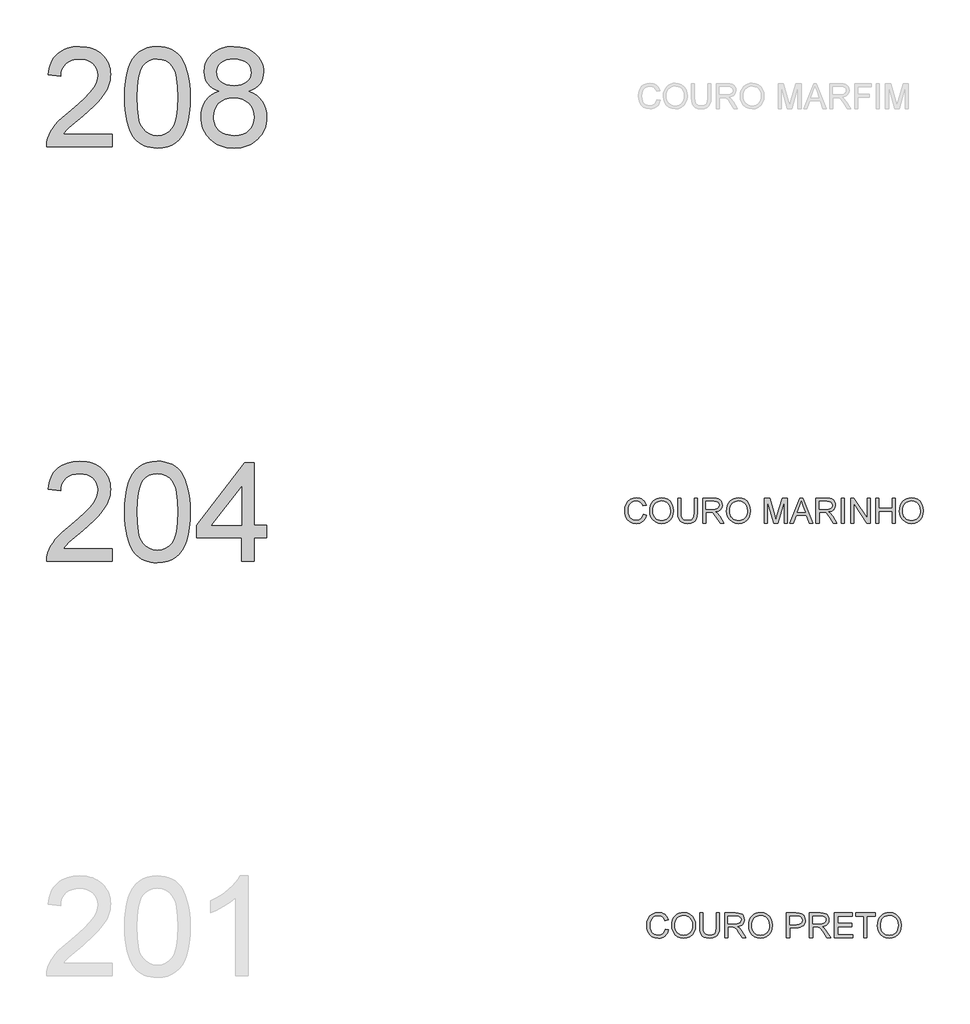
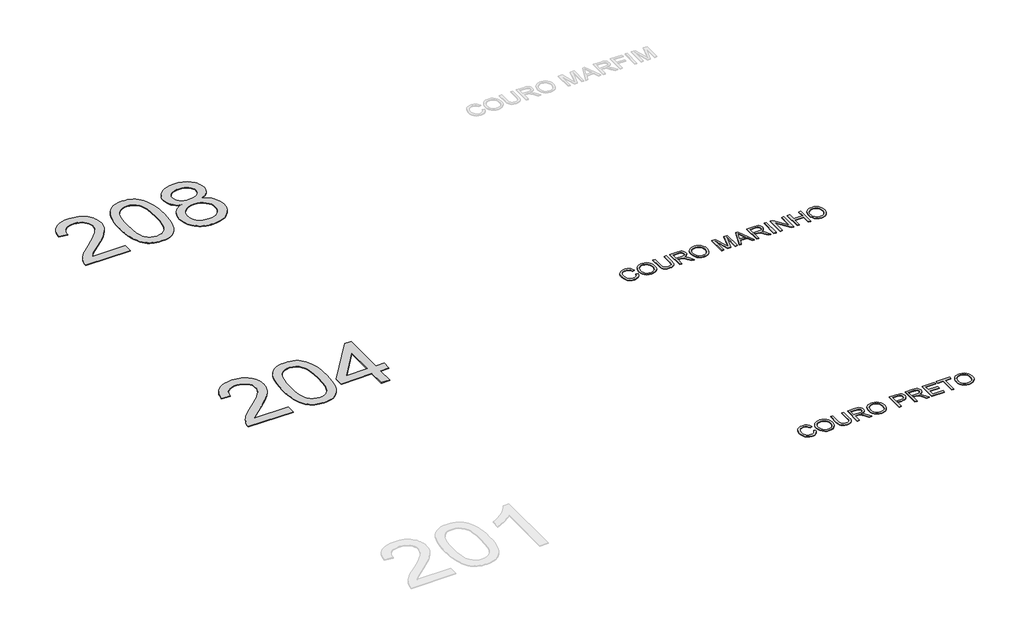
# One storey, part 2 of 35: 4 proxies.
"""IFC4 building model written with IfcOpenShell, lengths in millimetres."""

from ifc_helpers import new_model, si_unit, origin, origin_with_axes, place, context, project, spatial, polyline, outline, extrude, element, save

model = new_model("IFC4")

# Units and contexts
model_context = context("Model", 3, world=origin())
ifc_project = project(units=[si_unit("LENGTHUNIT", "METRE", prefix="MILLI")], contexts=[model_context])

# Site, building, storey
site = spatial("IfcSite", under=ifc_project)
building = spatial("IfcBuilding", under=site)
storey = spatial("IfcBuildingStorey", under=building, Name="Marelli - Linha YOU - Planta Baixa", Elevation=0.0)

# Proxies
placement = place(None, origin())
element("IfcBuildingElementProxy", 1, Name="1200mm Arial", ObjectType="1200mm Arial", at=placement, inside=storey, context=model_context, shape_type="SweptSolid", body=[
    extrude(outline(polyline([(-24408.8734949, -140338.133975), (-24408.8734949, -140488.8184403), (-25199.9669374, -140488.8184403), (-25196.6559994, -140435.7698566), (-25183.7801296, -140384.9285648), (-25167.3541985, -140344.029284), (-25146.6240481, -140303.7370085), (-25121.5896783, -140264.0517383), (-25092.2510892, -140224.9734733), (-25056.8424471, -140184.9755034), (-25013.5979186, -140142.5311182), (-24903.601202, -140050.303102), (-24814.169089, -139973.3605827), (-24740.9973602, -139905.8726307), (-24684.0860155, -139847.839246), (-24643.4350551, -139799.2604285), (-24614.9793827, -139755.7032003), (-24594.6539025, -139712.7345832), (-24582.4586144, -139670.3545774), (-24578.3935183, -139628.5631827), (-24582.2286881, -139589.2457945), (-24593.7341975, -139553.1105855), (-24612.9100465, -139520.1575558), (-24639.7562351, -139490.3867054), (-24672.7828412, -139465.7294146), (-24710.4999428, -139448.1170641), (-24752.9075398, -139437.5496538), (-24800.0056322, -139434.0271837), (-24849.6237163, -139437.4668804), (-24893.999482, -139447.7859703), (-24933.1329292, -139464.9844536), (-24967.024058, -139489.0623302), (-24994.4404637, -139519.2102597), (-25014.1497416, -139554.6189017), (-25026.1518917, -139595.2882563), (-25030.446914, -139641.2183234), (-25181.1313792, -139622.3827652), (-25168.1727359, -139544.5941173), (-25157.7133909, -139509.3832119), (-25144.6006971, -139476.6279187), (-25128.8346543, -139446.3282379), (-25110.4152627, -139418.4841694), (-25089.3425221, -139393.0957132), (-25065.6164327, -139370.1628693), (-25039.4945118, -139349.8143965), (-25011.2342768, -139332.1790533), (-24980.8357277, -139317.2568399), (-24948.2988645, -139305.0477562), (-24876.8101957, -139288.7689779), (-24796.7682706, -139283.3427185), (-24716.0089757, -139289.3759832), (-24678.9609595, -139296.9175641), (-24644.1340308, -139307.4757774), (-24611.5281898, -139321.050623), (-24581.1434362, -139337.642101), (-24552.9797702, -139357.2502113), (-24527.0371918, -139379.874954), (-24503.7571593, -139404.7345798), (-24483.5811311, -139431.0473395), (-24466.5091073, -139458.8132331), (-24452.5410878, -139488.0322606), (-24441.6770726, -139518.7044219), (-24433.9170618, -139550.8297172), (-24429.2610552, -139584.4081463), (-24427.7090531, -139619.4397093), (-24429.3829162, -139655.6301005), (-24434.4045054, -139691.5077921), (-24442.7738208, -139727.072784), (-24454.4908623, -139762.3250762), (-24470.098256, -139797.880871), (-24490.1386277, -139834.3563708), (-24543.5183052, -139910.0664855), (-24580.3524899, -139952.0510182), (-24628.6094106, -140000.4550917), (-24759.3914599, -140116.5218611), (-24932.7374561, -140261.4673672), (-24970.334996, -140299.6903065), (-25000.7220488, -140338.133975), (-24408.8734949, -140338.133975)])), origin_with_axes(), (0.0, 0.0, 1.0), 10.0),
    extrude(outline(polyline([(-24258.1890297, -139895.792664), (-24255.4207177, -139794.4319773), (-24247.1157816, -139702.8385576), (-24233.2742216, -139621.0124048), (-24213.8960375, -139548.953519), (-24189.0640028, -139486.073289), (-24158.860891, -139431.7831035), (-24123.2867021, -139386.0829627), (-24082.341436, -139348.9728664), (-24035.8871371, -139320.2596767), (-23983.7858495, -139299.7502555), (-23926.0375733, -139287.4446027), (-23862.6423085, -139283.3427185), (-23815.0015901, -139285.7707396), (-23769.7888929, -139293.0548031), (-23727.0042169, -139305.194909), (-23686.647562, -139322.1910572), (-23649.6938156, -139343.7581391), (-23617.1178649, -139369.6110463), (-23588.91971, -139399.7497788), (-23565.0993508, -139434.1743365), (-23544.4611709, -139472.7467637), (-23525.8095537, -139515.3291046), (-23494.4660077, -139612.5235278), (-23482.4914488, -139669.6831928), (-23473.9381924, -139735.9479371), (-23468.8062386, -139811.3177609), (-23467.0955873, -139895.792664), (-23469.8363081, -139996.5095573), (-23478.0584707, -140087.6431245), (-23491.7620751, -140169.1933658), (-23510.9471211, -140241.1602811), (-23535.5860177, -140304.0681023), (-23565.6511738, -140358.4410612), (-23601.1425893, -140404.2791578), (-23642.0602642, -140441.5823921), (-23688.5697454, -140470.4887199), (-23740.8365799, -140491.1360968), (-23798.8607676, -140503.524523), (-23862.6423085, -140507.6539984), (-23905.3166199, -140505.8605737), (-23945.6364866, -140500.4802995), (-23983.6019085, -140491.5131759), (-24019.2128856, -140478.9592028), (-24052.469418, -140462.8183803), (-24083.3715056, -140443.0907083), (-24111.9191484, -140419.7761868), (-24138.1123465, -140392.8748159), (-24166.2553191, -140350.2786794), (-24190.6458954, -140302.0999336), (-24211.2840753, -140248.3385785), (-24228.1698589, -140188.9946142), (-24241.3032461, -140124.0680406), (-24250.684237, -140053.5588577), (-24256.3128315, -139977.4670655), (-24258.1890297, -139895.792664)]), holes=[polyline([(-24107.5045645, -139895.4983584), (-24103.0899805, -140026.4919399), (-24089.8462287, -140132.5247279), (-24079.9134148, -140176.1808245), (-24067.773309, -140213.5967226), (-24053.4259112, -140244.7724225), (-24036.8712214, -140269.7079239), (-23999.4944107, -140307.884878), (-23957.9973216, -140335.1541309), (-23912.3799542, -140351.5156826), (-23862.6423085, -140356.9695332), (-23812.9046627, -140351.4972885), (-23767.2872953, -140335.0805545), (-23725.7902063, -140307.7193311), (-23688.4133956, -140269.4136183), (-23671.8587058, -140244.418336), (-23657.511308, -140213.2104465), (-23645.3712021, -140175.7899498), (-23635.4383883, -140132.1568459), (-23622.1946364, -140026.2528166), (-23617.7800525, -139895.4983584), (-23622.0474836, -139767.9720648), (-23634.8497771, -139663.8062779), (-23644.4514972, -139620.4835744), (-23656.1869328, -139583.0009976), (-23670.056084, -139551.3585475), (-23686.0589508, -139525.5562241), (-23722.8103621, -139485.5122689), (-23764.7856978, -139456.9094438), (-23811.9849578, -139439.7477487), (-23864.4081421, -139434.0271837), (-23913.8882704, -139439.067167), (-23958.7330856, -139454.187117), (-23998.9425877, -139479.3870337), (-24034.5167766, -139514.666917), (-24051.6232894, -139543.2145599), (-24066.4489338, -139577.2068562), (-24078.9937099, -139616.6438061), (-24089.2576175, -139661.5254095), (-24102.9428277, -139767.6225769), (-24107.5045645, -139895.4983584)])]), origin_with_axes(), (0.0, 0.0, 1.0), 10.0),
    extrude(outline(polyline([(-23115.6947055, -139824.8650154), (-23159.0404016, -139806.7652212), (-23196.371227, -139785.1337599), (-23227.6871819, -139759.9706314), (-23252.9882661, -139731.2758358), (-23272.4952089, -139699.3252845), (-23286.4287394, -139664.3948891), (-23294.7888578, -139626.4846495), (-23297.5755639, -139585.5945657), (-23291.505511, -139524.1398784), (-23283.9179448, -139495.3301197), (-23273.2953522, -139467.7987509), (-23259.6377331, -139441.545772), (-23242.9450876, -139416.571183), (-23200.4547172, -139370.4571749), (-23175.1674285, -139350.0397242), (-23147.865986, -139332.3446002), (-23118.5503895, -139317.371803), (-23087.2206391, -139305.1213326), (-23018.5186765, -139288.787372), (-22941.7600982, -139283.3427185), (-22864.6336379, -139288.9161307), (-22795.4166405, -139305.6363674), (-22763.7741904, -139318.1765449), (-22734.109106, -139333.5034285), (-22706.4213873, -139351.6170183), (-22680.7110344, -139372.5173141), (-22637.4481118, -139419.5326331), (-22620.4519636, -139444.8613085), (-22606.5460242, -139471.4039944), (-22595.7302935, -139499.1606909), (-22588.0047716, -139528.1313981), (-22583.3694585, -139558.3161158), (-22581.8243541, -139589.7148441), (-22584.574272, -139629.160991), (-22592.8240257, -139665.9767817), (-22606.5736153, -139700.1622161), (-22625.8230407, -139731.7172942), (-22650.6642724, -139760.2189518), (-22681.189281, -139785.2441245), (-22717.3980664, -139806.7928124), (-22759.2906286, -139824.8650154), (-22709.764515, -139845.9354566), (-22666.5475776, -139872.6528865), (-22629.6398164, -139905.0173051), (-22599.0412315, -139943.0287122), (-22575.0277342, -139985.8409794), (-22557.8752362, -140032.607978), (-22547.5837374, -140083.3297081), (-22544.1532378, -140138.0061697), (-22545.854692, -140176.3670647), (-22550.9590547, -140213.1644613), (-22559.4663258, -140248.3983594), (-22571.3765054, -140282.068759), (-22586.6895935, -140314.1756601), (-22605.40559, -140344.7190628), (-22627.5244949, -140373.6989669), (-22653.0463083, -140401.1153726), (-22681.3456308, -140426.085363), (-22711.797063, -140447.7260214), (-22744.4006048, -140466.0373477), (-22779.1562563, -140481.019342), (-22816.0640175, -140492.6720042), (-22855.1238883, -140500.9953343), (-22896.3358688, -140505.9893324), (-22939.699959, -140507.6539984), (-22983.0640492, -140505.9824346), (-23024.2760297, -140500.9677432), (-23063.3359005, -140492.6099241), (-23100.2436617, -140480.9089774), (-23134.9993132, -140465.864903), (-23167.602855, -140447.4777011), (-23198.0542872, -140425.7473715), (-23226.3536096, -140400.6739142), (-23251.875423, -140373.1034579), (-23273.994328, -140343.8821312), (-23292.7103245, -140313.009934), (-23308.0234126, -140280.4868664), (-23319.9335922, -140246.3129283), (-23328.4408633, -140210.4881198), (-23333.545226, -140173.0124408), (-23335.2466802, -140133.8858913), (-23331.6782249, -140076.7170293), (-23320.9728588, -140024.4042096), (-23303.130582, -139976.9474322), (-23278.1513946, -139934.3466971), (-23246.5871194, -139897.3745566), (-23208.9895795, -139866.8035628), (-23165.3587748, -139842.6337157), (-23115.6947055, -139824.8650154)]), holes=[polyline([(-23146.8910987, -139590.0091497), (-23143.5525696, -139624.553269), (-23133.5369822, -139655.7864504), (-23116.8443367, -139683.7086938), (-23093.474633, -139708.3199993), (-23063.7221766, -139728.4063562), (-23027.8812732, -139742.753754), (-22985.9519228, -139751.3621927), (-22937.9341254, -139754.2316723), (-22891.1027474, -139751.3805868), (-22850.083905, -139742.8273304), (-22814.877598, -139728.5719031), (-22785.4838266, -139708.6143049), (-22762.3072609, -139684.5180342), (-22745.7525711, -139657.8465896), (-22735.8197573, -139628.5999709), (-22732.5088193, -139596.7781784), (-22735.9301219, -139563.714784), (-22746.1940295, -139533.3921106), (-22763.3005423, -139505.810158), (-22787.2496602, -139480.9689263), (-22817.3056192, -139460.4319139), (-22852.7326553, -139445.7626193), (-22893.5307686, -139436.9610426), (-22939.699959, -139434.0271837), (-22986.2278343, -139436.8966633), (-23027.2190856, -139445.5051019), (-23062.6737129, -139459.8524998), (-23092.5917162, -139479.9388567), (-23116.347696, -139504.0351274), (-23133.3162531, -139530.4122664), (-23143.4973873, -139559.0702739), (-23146.8910987, -139590.0091497)]), polyline([(-23184.562215, -140128.5883906), (-23182.9895195, -140157.6418712), (-23178.2714329, -140186.2354992), (-23159.3990865, -140242.0431979), (-23144.3986982, -140267.9328933), (-23124.5606616, -140290.7139859), (-23099.8849767, -140310.3864756), (-23070.3716437, -140326.9503624), (-23038.1819691, -140340.0837496), (-23005.4772597, -140349.4647405), (-22972.2575156, -140355.093335), (-22938.5227366, -140356.9695332), (-22884.0394131, -140353.0239988), (-22835.9572364, -140341.1873956), (-22794.2762063, -140321.4597236), (-22758.996323, -140293.8409828), (-22730.9269267, -140260.133795), (-22710.877358, -140222.140782), (-22698.8476167, -140179.8619437), (-22694.837703, -140133.2972801), (-22698.9763754, -140085.9876555), (-22711.3923928, -140042.9454621), (-22732.085755, -140004.1706998), (-22761.0564621, -139969.6633687), (-22797.2928387, -139941.336455), (-22839.7832091, -139921.1029453), (-22888.5275735, -139908.9628395), (-22943.5259317, -139904.9161375), (-22997.2091119, -139908.9076572), (-23044.6566922, -139920.8822161), (-23085.8686727, -139940.8398144), (-23120.8450534, -139968.7804519), (-23148.7213116, -140002.7175659), (-23168.6329246, -140040.6645937), (-23180.5798924, -140082.6215353), (-23184.562215, -140128.5883906)])]), origin_with_axes(), (0.0, 0.0, 1.0), 10.0),
])
element("IfcBuildingElementProxy", 2, Name="1200mm Arial", ObjectType="1200mm Arial", at=placement, inside=storey, context=model_context, shape_type="SweptSolid", body=[
    extrude(outline(polyline([(-24408.8734949, -145338.133975), (-24408.8734949, -145488.8184403), (-25199.9669374, -145488.8184403), (-25196.6559994, -145435.7698566), (-25183.7801296, -145384.9285648), (-25167.3541985, -145344.029284), (-25146.6240481, -145303.7370085), (-25121.5896783, -145264.0517383), (-25092.2510892, -145224.9734733), (-25056.8424471, -145184.9755034), (-25013.5979186, -145142.5311182), (-24903.601202, -145050.303102), (-24814.169089, -144973.3605827), (-24740.9973602, -144905.8726307), (-24684.0860155, -144847.839246), (-24643.4350551, -144799.2604285), (-24614.9793827, -144755.7032003), (-24594.6539025, -144712.7345832), (-24582.4586144, -144670.3545774), (-24578.3935183, -144628.5631827), (-24582.2286881, -144589.2457945), (-24593.7341975, -144553.1105855), (-24612.9100465, -144520.1575558), (-24639.7562351, -144490.3867054), (-24672.7828412, -144465.7294146), (-24710.4999428, -144448.1170641), (-24752.9075398, -144437.5496538), (-24800.0056322, -144434.0271837), (-24849.6237163, -144437.4668804), (-24893.999482, -144447.7859703), (-24933.1329292, -144464.9844536), (-24967.024058, -144489.0623302), (-24994.4404637, -144519.2102597), (-25014.1497416, -144554.6189017), (-25026.1518917, -144595.2882563), (-25030.446914, -144641.2183234), (-25181.1313792, -144622.3827652), (-25168.1727359, -144544.5941173), (-25157.7133909, -144509.3832119), (-25144.6006971, -144476.6279187), (-25128.8346543, -144446.3282379), (-25110.4152627, -144418.4841694), (-25089.3425221, -144393.0957132), (-25065.6164327, -144370.1628693), (-25039.4945118, -144349.8143965), (-25011.2342768, -144332.1790533), (-24980.8357277, -144317.2568399), (-24948.2988645, -144305.0477562), (-24876.8101957, -144288.7689779), (-24796.7682706, -144283.3427185), (-24716.0089757, -144289.3759832), (-24678.9609595, -144296.9175641), (-24644.1340308, -144307.4757774), (-24611.5281898, -144321.050623), (-24581.1434362, -144337.642101), (-24552.9797702, -144357.2502113), (-24527.0371918, -144379.874954), (-24503.7571593, -144404.7345798), (-24483.5811311, -144431.0473395), (-24466.5091073, -144458.8132331), (-24452.5410878, -144488.0322606), (-24441.6770726, -144518.7044219), (-24433.9170618, -144550.8297172), (-24429.2610552, -144584.4081463), (-24427.7090531, -144619.4397093), (-24429.3829162, -144655.6301005), (-24434.4045054, -144691.5077921), (-24442.7738208, -144727.072784), (-24454.4908623, -144762.3250762), (-24470.098256, -144797.880871), (-24490.1386277, -144834.3563708), (-24543.5183052, -144910.0664855), (-24580.3524899, -144952.0510182), (-24628.6094106, -145000.4550917), (-24759.3914599, -145116.5218611), (-24932.7374561, -145261.4673672), (-24970.334996, -145299.6903065), (-25000.7220488, -145338.133975), (-24408.8734949, -145338.133975)])), origin_with_axes(), (0.0, 0.0, 1.0), 10.0),
    extrude(outline(polyline([(-24258.1890297, -144895.792664), (-24255.4207177, -144794.4319773), (-24247.1157816, -144702.8385576), (-24233.2742216, -144621.0124048), (-24213.8960375, -144548.953519), (-24189.0640028, -144486.073289), (-24158.860891, -144431.7831035), (-24123.2867021, -144386.0829627), (-24082.341436, -144348.9728664), (-24035.8871371, -144320.2596767), (-23983.7858495, -144299.7502555), (-23926.0375733, -144287.4446027), (-23862.6423085, -144283.3427185), (-23815.0015901, -144285.7707396), (-23769.7888929, -144293.0548031), (-23727.0042169, -144305.194909), (-23686.647562, -144322.1910572), (-23649.6938156, -144343.7581391), (-23617.1178649, -144369.6110463), (-23588.91971, -144399.7497788), (-23565.0993508, -144434.1743365), (-23544.4611709, -144472.7467637), (-23525.8095537, -144515.3291046), (-23494.4660077, -144612.5235278), (-23482.4914488, -144669.6831928), (-23473.9381924, -144735.9479371), (-23468.8062386, -144811.3177609), (-23467.0955873, -144895.792664), (-23469.8363081, -144996.5095573), (-23478.0584707, -145087.6431245), (-23491.7620751, -145169.1933658), (-23510.9471211, -145241.1602811), (-23535.5860177, -145304.0681023), (-23565.6511738, -145358.4410612), (-23601.1425893, -145404.2791578), (-23642.0602642, -145441.5823921), (-23688.5697454, -145470.4887199), (-23740.8365799, -145491.1360968), (-23798.8607676, -145503.524523), (-23862.6423085, -145507.6539984), (-23905.3166199, -145505.8605737), (-23945.6364866, -145500.4802995), (-23983.6019085, -145491.5131759), (-24019.2128856, -145478.9592028), (-24052.469418, -145462.8183803), (-24083.3715056, -145443.0907083), (-24111.9191484, -145419.7761868), (-24138.1123465, -145392.8748159), (-24166.2553191, -145350.2786794), (-24190.6458954, -145302.0999336), (-24211.2840753, -145248.3385785), (-24228.1698589, -145188.9946142), (-24241.3032461, -145124.0680406), (-24250.684237, -145053.5588577), (-24256.3128315, -144977.4670655), (-24258.1890297, -144895.792664)]), holes=[polyline([(-24107.5045645, -144895.4983584), (-24103.0899805, -145026.4919399), (-24089.8462287, -145132.5247279), (-24079.9134148, -145176.1808245), (-24067.773309, -145213.5967226), (-24053.4259112, -145244.7724225), (-24036.8712214, -145269.7079239), (-23999.4944107, -145307.884878), (-23957.9973216, -145335.1541309), (-23912.3799542, -145351.5156826), (-23862.6423085, -145356.9695332), (-23812.9046627, -145351.4972885), (-23767.2872953, -145335.0805545), (-23725.7902063, -145307.7193311), (-23688.4133956, -145269.4136183), (-23671.8587058, -145244.418336), (-23657.511308, -145213.2104465), (-23645.3712021, -145175.7899498), (-23635.4383883, -145132.1568459), (-23622.1946364, -145026.2528166), (-23617.7800525, -144895.4983584), (-23622.0474836, -144767.9720648), (-23634.8497771, -144663.8062779), (-23644.4514972, -144620.4835744), (-23656.1869328, -144583.0009976), (-23670.056084, -144551.3585475), (-23686.0589508, -144525.5562241), (-23722.8103621, -144485.5122689), (-23764.7856978, -144456.9094438), (-23811.9849578, -144439.7477487), (-23864.4081421, -144434.0271837), (-23913.8882704, -144439.067167), (-23958.7330856, -144454.187117), (-23998.9425877, -144479.3870337), (-24034.5167766, -144514.666917), (-24051.6232894, -144543.2145599), (-24066.4489338, -144577.2068562), (-24078.9937099, -144616.6438061), (-24089.2576175, -144661.5254095), (-24102.9428277, -144767.6225769), (-24107.5045645, -144895.4983584)])]), origin_with_axes(), (0.0, 0.0, 1.0), 10.0),
    extrude(outline(polyline([(-22845.5221682, -145488.8184403), (-22845.5221682, -145206.285068), (-23391.7533547, -145206.285068), (-23391.7533547, -145055.6006027), (-22807.8510519, -144302.1782766), (-22694.837703, -144302.1782766), (-22694.837703, -145055.6006027), (-22544.1532378, -145055.6006027), (-22544.1532378, -145206.285068), (-22694.837703, -145206.285068), (-22694.837703, -145488.8184403), (-22845.5221682, -145488.8184403)]), holes=[polyline([(-22845.5221682, -145055.6006027), (-22845.5221682, -144590.0091497), (-23206.3408291, -145055.6006027), (-22845.5221682, -145055.6006027)])]), origin_with_axes(), (0.0, 0.0, 1.0), 10.0),
])
element("IfcBuildingElementProxy", 3, Name="300mm Arial", ObjectType="300mm Arial", at=placement, inside=storey, context=model_context, shape_type="SweptSolid", body=[
    extrude(outline(polyline([(-17998.981423, -144923.4390831), (-17961.3103067, -144933.1511677), (-17968.7645157, -144956.5783531), (-17978.692731, -144977.0486868), (-17991.0949528, -144994.5621691), (-18005.9711809, -145009.1187998), (-18022.9857232, -145020.5622291), (-18041.8028873, -145028.7361071), (-18062.4226731, -145033.640434), (-18084.8450807, -145035.2752096), (-18128.5402647, -145030.3271968), (-18163.2407339, -145015.4831583), (-18189.8386021, -144991.2581289), (-18209.2259833, -144958.1671434), (-18221.0625865, -144919.2636224), (-18225.0081209, -144877.6009865), (-18220.5475517, -144833.6574822), (-18207.1658441, -144795.7104543), (-18185.5619739, -144764.9647166), (-18156.434917, -144742.6250824), (-18121.8907976, -144729.0226457), (-18084.0357403, -144724.4885001), (-18042.7317893, -144730.3562179), (-18024.7630531, -144737.6908652), (-18008.5831431, -144747.9593714), (-17994.4587738, -144760.8904235), (-17982.6566595, -144776.2127086), (-17966.0191963, -144814.0309777), (-18003.6903126, -144823.0072984), (-18016.7501234, -144795.5357104), (-18034.5924002, -144776.6909552), (-18057.4378721, -144765.7924511), (-18085.5072683, -144762.1596164), (-18117.8624898, -144766.1879242), (-18144.4419639, -144778.2728478), (-18164.6110943, -144797.1451941), (-18177.7352845, -144821.5357704), (-18184.9365745, -144849.1085259), (-18187.3370046, -144877.5274101), (-18184.4951162, -144912.3290468), (-18175.9694509, -144942.421794), (-18161.4381121, -144966.6560205), (-18140.579203, -144983.8820949), (-18115.5724244, -144994.1735937), (-18088.5974771, -144997.6040933), (-18057.1527635, -144992.931992), (-18030.9503684, -144978.9156879), (-18011.1675141, -144955.7023341), (-17998.981423, -144923.4390831)])), origin_with_axes(), (0.0, 0.0, 1.0), 10.0),
    extrude(outline(polyline([(-17923.6391904, -144883.8549804), (-17921.1283958, -144848.5061192), (-17913.596012, -144817.213157), (-17901.0420389, -144789.9760937), (-17883.4664766, -144766.7949295), (-17861.9223872, -144748.2858666), (-17837.4628331, -144735.0651074), (-17810.0878141, -144727.1326519), (-17779.7973303, -144724.4885001), (-17740.2684099, -144729.454907), (-17704.8229797, -144744.3541278), (-17675.3924201, -144768.1376988), (-17653.9081116, -144799.7571563), (-17640.7747243, -144837.68579), (-17636.3969286, -144880.3968896), (-17641.0046506, -144923.6782064), (-17654.8278165, -144962.140269), (-17677.1030714, -144993.8149088), (-17707.0670599, -145016.7339571), (-17742.2089875, -145030.6398965), (-17780.0180595, -145035.2752096), (-17820.1539852, -145030.1524528), (-17855.8017505, -145014.7841825), (-17885.1587337, -144990.5591531), (-17906.4223131, -144958.8661192), (-17919.3349711, -144922.3998164), (-17923.6391904, -144883.8549804)]), holes=[polyline([(-17885.9680741, -144884.2228624), (-17884.0849782, -144909.1974513), (-17878.4356903, -144931.3669401), (-17869.0202105, -144950.7313286), (-17855.8385387, -144967.2906169), (-17839.8149786, -144980.5527628), (-17821.8738335, -144990.0257242), (-17802.0151036, -144995.709501), (-17780.2387887, -144997.6040933), (-17758.0899933, -144995.6911069), (-17737.9967386, -144989.9521478), (-17719.9590245, -144980.3872159), (-17703.9768511, -144966.9963113), (-17690.8917484, -144950.0875351), (-17681.5452464, -144929.9689885), (-17675.9373453, -144906.6406715), (-17674.0680449, -144880.102584), (-17677.2686183, -144846.7540812), (-17686.8703383, -144817.9305269), (-17702.6248848, -144794.358488), (-17724.2839372, -144776.7645316), (-17750.4127559, -144765.8108452), (-17779.5766011, -144762.1596164), (-17800.5964586, -144763.9185522), (-17820.0988029, -144769.1953595), (-17838.0836339, -144777.9900385), (-17854.5509517, -144790.302589), (-17868.2959428, -144806.7262208), (-17878.1137935, -144827.8541437), (-17884.004504, -144853.6863575), (-17885.9680741, -144884.2228624)])]), origin_with_axes(), (0.0, 0.0, 1.0), 10.0),
    extrude(outline(polyline([(-17386.8257831, -144729.1973896), (-17349.1546668, -144729.1973896), (-17349.1546668, -144903.0584205), (-17351.7114466, -144943.7737604), (-17359.3817862, -144975.1265034), (-17373.7107899, -144999.3147446), (-17396.2435621, -145018.5365788), (-17427.0352851, -145031.0905519), (-17466.1411412, -145035.2752096), (-17504.3916717, -145031.6331779), (-17534.9718625, -145020.7070826), (-17557.8909108, -145002.8740029), (-17573.1580136, -144978.5110178), (-17581.7388612, -144945.8338995), (-17584.5991437, -144903.0584205), (-17584.5991437, -144729.1973896), (-17546.9280274, -144729.1973896), (-17546.9280274, -144901.7340454), (-17545.0702233, -144935.588386), (-17539.4968111, -144959.1604248), (-17529.3984503, -144975.4851883), (-17513.9658006, -144987.597703), (-17493.8426555, -144995.1024957), (-17469.6728084, -144997.6040933), (-17431.3578986, -144992.6560805), (-17417.0150993, -144986.4710644), (-17405.8820704, -144977.812042), (-17397.5449447, -144965.6351479), (-17391.5898549, -144948.8965171), (-17386.8257831, -144901.7340454), (-17386.8257831, -144729.1973896)])), origin_with_axes(), (0.0, 0.0, 1.0), 10.0),
    extrude(outline(polyline([(-17283.2302132, -145030.5663201), (-17283.2302132, -144729.1973896), (-17153.3678689, -144729.1973896), (-17118.4650646, -144731.2299376), (-17093.0720099, -144737.3275817), (-17074.5123633, -144748.5847708), (-17060.1097831, -144766.0959537), (-17050.866748, -144787.8101885), (-17047.7857363, -144811.6765329), (-17052.890099, -144841.3646099), (-17068.203187, -144865.9759154), (-17079.8029662, -144876.0052983), (-17094.1848529, -144884.0205273), (-17131.2949492, -144894.0085235), (-17109.8842171, -144910.1217548), (-17079.3500115, -144948.8965171), (-17029.097331, -145030.5663201), (-17072.8752884, -145030.5663201), (-17112.0915091, -144968.0999573), (-17140.4184227, -144926.750021), (-17160.3208386, -144907.2154871), (-17178.2366918, -144900.0417882), (-17200.0888823, -144898.717413), (-17245.5590969, -144898.717413), (-17245.5590969, -145030.5663201), (-17283.2302132, -145030.5663201)]), holes=[polyline([(-17245.5590969, -144861.0462967), (-17161.2405436, -144861.0462967), (-17137.0247113, -144859.7127245), (-17118.2351384, -144855.7120078), (-17104.0900757, -144848.7774322), (-17093.8077739, -144838.6422832), (-17087.5445829, -144826.3826157), (-17085.4568526, -144813.0744845), (-17089.4391752, -144794.6987789), (-17101.386143, -144779.8915286), (-17121.9415495, -144770.1242616), (-17151.7491881, -144766.8685059), (-17245.5590969, -144766.8685059), (-17245.5590969, -144861.0462967)])]), origin_with_axes(), (0.0, 0.0, 1.0), 10.0),
    extrude(outline(polyline([(-16995.9879514, -144883.8549804), (-16993.4771568, -144848.5061192), (-16985.9447729, -144817.213157), (-16973.3907998, -144789.9760937), (-16955.8152375, -144766.7949295), (-16934.2711482, -144748.2858666), (-16909.811594, -144735.0651074), (-16882.4365751, -144727.1326519), (-16852.1460913, -144724.4885001), (-16812.6171709, -144729.454907), (-16777.1717407, -144744.3541278), (-16747.741181, -144768.1376988), (-16726.2568725, -144799.7571563), (-16713.1234853, -144837.68579), (-16708.7456896, -144880.3968896), (-16713.3534115, -144923.6782064), (-16727.1765775, -144962.140269), (-16749.4518323, -144993.8149088), (-16779.4158208, -145016.7339571), (-16814.5577484, -145030.6398965), (-16852.3668205, -145035.2752096), (-16892.5027461, -145030.1524528), (-16928.1505115, -145014.7841825), (-16957.5074947, -144990.5591531), (-16978.771074, -144958.8661192), (-16991.683732, -144922.3998164), (-16995.9879514, -144883.8549804)]), holes=[polyline([(-16958.3168351, -144884.2228624), (-16956.4337391, -144909.1974513), (-16950.7844512, -144931.3669401), (-16941.3689714, -144950.7313286), (-16928.1872997, -144967.2906169), (-16912.1637395, -144980.5527628), (-16894.2225945, -144990.0257242), (-16874.3638645, -144995.709501), (-16852.5875497, -144997.6040933), (-16830.4387543, -144995.6911069), (-16810.3454996, -144989.9521478), (-16792.3077855, -144980.3872159), (-16776.3256121, -144966.9963113), (-16763.2405094, -144950.0875351), (-16753.8940074, -144929.9689885), (-16748.2861062, -144906.6406715), (-16746.4168059, -144880.102584), (-16749.6173792, -144846.7540812), (-16759.2190993, -144817.9305269), (-16774.9736457, -144794.358488), (-16796.6326982, -144776.7645316), (-16822.7615169, -144765.8108452), (-16851.9253621, -144762.1596164), (-16872.9452196, -144763.9185522), (-16892.4475638, -144769.1953595), (-16910.4323949, -144777.9900385), (-16926.8997127, -144790.302589), (-16940.6447037, -144806.7262208), (-16950.4625545, -144827.8541437), (-16956.3532649, -144853.6863575), (-16958.3168351, -144884.2228624)])]), origin_with_axes(), (0.0, 0.0, 1.0), 10.0),
    extrude(outline(polyline([(-16539.2256662, -145030.5663201), (-16539.2256662, -144729.1973896), (-16474.4048586, -144729.1973896), (-16412.7478362, -144941.6124536), (-16400.3134248, -144985.9790223), (-16386.8489438, -144937.9336337), (-16326.221991, -144729.1973896), (-16261.4011834, -144729.1973896), (-16261.4011834, -145030.5663201), (-16299.0722997, -145030.5663201), (-16299.0722997, -144766.8685059), (-16374.7824143, -145030.5663201), (-16425.8444353, -145030.5663201), (-16501.5545499, -144766.8685059), (-16501.5545499, -145030.5663201), (-16539.2256662, -145030.5663201)])), origin_with_axes(), (0.0, 0.0, 1.0), 10.0),
    extrude(outline(polyline([(-16230.5726722, -145030.5663201), (-16110.2752598, -144729.1973896), (-16078.1959498, -144729.1973896), (-15957.8985374, -145030.5663201), (-15997.7033693, -145030.5663201), (-16032.2107004, -144936.3885293), (-16156.3340856, -144936.3885293), (-16190.7678403, -145030.5663201), (-16230.5726722, -145030.5663201)]), holes=[polyline([(-16142.5017226, -144898.717413), (-16045.969487, -144898.717413), (-16073.1191783, -144824.6259792), (-16094.2356048, -144766.8685059), (-16112.9975866, -144818.1512561), (-16142.5017226, -144898.717413)])]), origin_with_axes(), (0.0, 0.0, 1.0), 10.0),
    extrude(outline(polyline([(-15917.6522471, -145030.5663201), (-15917.6522471, -144729.1973896), (-15787.7899028, -144729.1973896), (-15752.8870985, -144731.2299376), (-15727.4940438, -144737.3275817), (-15708.9343972, -144748.5847708), (-15694.531817, -144766.0959537), (-15685.2887819, -144787.8101885), (-15682.2077702, -144811.6765329), (-15687.3121329, -144841.3646099), (-15702.6252209, -144865.9759154), (-15714.2250001, -144876.0052983), (-15728.6068869, -144884.0205273), (-15765.7169831, -144894.0085235), (-15744.306251, -144910.1217548), (-15713.7720454, -144948.8965171), (-15663.5193649, -145030.5663201), (-15707.2973223, -145030.5663201), (-15746.513543, -144968.0999573), (-15774.8404566, -144926.750021), (-15794.7428725, -144907.2154871), (-15812.6587257, -144900.0417882), (-15834.5109162, -144898.717413), (-15879.9811308, -144898.717413), (-15879.9811308, -145030.5663201), (-15917.6522471, -145030.5663201)]), holes=[polyline([(-15879.9811308, -144861.0462967), (-15795.6625775, -144861.0462967), (-15771.4467452, -144859.7127245), (-15752.6571723, -144855.7120078), (-15738.5121096, -144848.7774322), (-15728.2298078, -144838.6422832), (-15721.9666168, -144826.3826157), (-15719.8788865, -144813.0744845), (-15723.8612091, -144794.6987789), (-15735.8081769, -144779.8915286), (-15756.3635834, -144770.1242616), (-15786.171222, -144766.8685059), (-15879.9811308, -144766.8685059), (-15879.9811308, -144861.0462967)])]), origin_with_axes(), (0.0, 0.0, 1.0), 10.0),
    extrude(outline(polyline([(-15611.5744271, -145030.5663201), (-15611.5744271, -144729.1973896), (-15573.9033108, -144729.1973896), (-15573.9033108, -145030.5663201), (-15611.5744271, -145030.5663201)])), origin_with_axes(), (0.0, 0.0, 1.0), 10.0),
    extrude(outline(polyline([(-15498.5610782, -145030.5663201), (-15498.5610782, -144729.1973896), (-15458.2412115, -144729.1973896), (-15300.7877176, -144967.9528045), (-15300.7877176, -144729.1973896), (-15263.1166013, -144729.1973896), (-15263.1166013, -145030.5663201), (-15303.436468, -145030.5663201), (-15460.8899619, -144791.7373288), (-15460.8899619, -145030.5663201), (-15498.5610782, -145030.5663201)])), origin_with_axes(), (0.0, 0.0, 1.0), 10.0),
    extrude(outline(polyline([(-15197.1921478, -145030.5663201), (-15197.1921478, -144729.1973896), (-15159.5210315, -144729.1973896), (-15159.5210315, -144851.6285176), (-14999.4187872, -144851.6285176), (-14999.4187872, -144729.1973896), (-14961.7476709, -144729.1973896), (-14961.7476709, -145030.5663201), (-14999.4187872, -145030.5663201), (-14999.4187872, -144889.2996339), (-15159.5210315, -144889.2996339), (-15159.5210315, -145030.5663201), (-15197.1921478, -145030.5663201)])), origin_with_axes(), (0.0, 0.0, 1.0), 10.0),
    extrude(outline(polyline([(-14909.9498859, -144883.8549804), (-14907.4390913, -144848.5061192), (-14899.9067075, -144817.213157), (-14887.3527344, -144789.9760937), (-14869.7771721, -144766.7949295), (-14848.2330827, -144748.2858666), (-14823.7735286, -144735.0651074), (-14796.3985096, -144727.1326519), (-14766.1080258, -144724.4885001), (-14726.5791054, -144729.454907), (-14691.1336752, -144744.3541278), (-14661.7031156, -144768.1376988), (-14640.2188071, -144799.7571563), (-14627.0854198, -144837.68579), (-14622.7076241, -144880.3968896), (-14627.3153461, -144923.6782064), (-14641.1385121, -144962.140269), (-14663.4137669, -144993.8149088), (-14693.3777554, -145016.7339571), (-14728.519683, -145030.6398965), (-14766.328755, -145035.2752096), (-14806.4646807, -145030.1524528), (-14842.112446, -145014.7841825), (-14871.4694292, -144990.5591531), (-14892.7330086, -144958.8661192), (-14905.6456666, -144922.3998164), (-14909.9498859, -144883.8549804)]), holes=[polyline([(-14872.2787696, -144884.2228624), (-14870.3956737, -144909.1974513), (-14864.7463858, -144931.3669401), (-14855.330906, -144950.7313286), (-14842.1492342, -144967.2906169), (-14826.1256741, -144980.5527628), (-14808.184529, -144990.0257242), (-14788.3257991, -144995.709501), (-14766.5494842, -144997.6040933), (-14744.4006888, -144995.6911069), (-14724.3074341, -144989.9521478), (-14706.26972, -144980.3872159), (-14690.2875466, -144966.9963113), (-14677.2024439, -144950.0875351), (-14667.855942, -144929.9689885), (-14662.2480408, -144906.6406715), (-14660.3787404, -144880.102584), (-14663.5793138, -144846.7540812), (-14673.1810338, -144817.9305269), (-14688.9355803, -144794.358488), (-14710.5946328, -144776.7645316), (-14736.7234515, -144765.8108452), (-14765.8872966, -144762.1596164), (-14786.9071541, -144763.9185522), (-14806.4094984, -144769.1953595), (-14824.3943294, -144777.9900385), (-14840.8616472, -144790.302589), (-14854.6066383, -144806.7262208), (-14864.424489, -144827.8541437), (-14870.3151995, -144853.6863575), (-14872.2787696, -144884.2228624)])]), origin_with_axes(), (0.0, 0.0, 1.0), 10.0),
])
element("IfcBuildingElementProxy", 4, Name="300mm Arial", ObjectType="300mm Arial", at=placement, inside=storey, context=model_context, shape_type="SweptSolid", body=[
    extrude(outline(polyline([(-17732.9291641, -149923.4390831), (-17695.2580478, -149933.1511677), (-17702.7122567, -149956.5783531), (-17712.6404721, -149977.0486868), (-17725.0426939, -149994.5621691), (-17739.918922, -150009.1187998), (-17756.9334643, -150020.5622291), (-17775.7506284, -150028.7361071), (-17796.3704142, -150033.640434), (-17818.7928218, -150035.2752096), (-17862.4880058, -150030.3271968), (-17897.188475, -150015.4831583), (-17923.7863432, -149991.2581289), (-17943.1737244, -149958.1671434), (-17955.0103276, -149919.2636224), (-17958.955862, -149877.6009865), (-17954.4952928, -149833.6574822), (-17941.1135852, -149795.7104543), (-17919.509715, -149764.9647166), (-17890.3826581, -149742.6250824), (-17855.8385387, -149729.0226457), (-17817.9834814, -149724.4885001), (-17776.6795304, -149730.3562179), (-17758.7107942, -149737.6908652), (-17742.5308842, -149747.9593714), (-17728.4065148, -149760.8904235), (-17716.6044006, -149776.2127086), (-17699.9669374, -149814.0309777), (-17737.6380537, -149823.0072984), (-17750.6978645, -149795.5357104), (-17768.5401413, -149776.6909552), (-17791.3856132, -149765.7924511), (-17819.4550094, -149762.1596164), (-17851.8102309, -149766.1879242), (-17878.389705, -149778.2728478), (-17898.5588354, -149797.1451941), (-17911.6830256, -149821.5357704), (-17918.8843156, -149849.1085259), (-17921.2847457, -149877.5274101), (-17918.4428572, -149912.3290468), (-17909.917192, -149942.421794), (-17895.3858532, -149966.6560205), (-17874.5269441, -149983.8820949), (-17849.5201654, -149994.1735937), (-17822.5452182, -149997.6040933), (-17791.1005046, -149992.931992), (-17764.8981095, -149978.9156879), (-17745.1152552, -149955.7023341), (-17732.9291641, -149923.4390831)])), origin_with_axes(), (0.0, 0.0, 1.0), 10.0),
    extrude(outline(polyline([(-17657.5869315, -149883.8549804), (-17655.0761369, -149848.5061192), (-17647.543753, -149817.213157), (-17634.98978, -149789.9760937), (-17617.4142176, -149766.7949295), (-17595.8701283, -149748.2858666), (-17571.4105741, -149735.0651074), (-17544.0355552, -149727.1326519), (-17513.7450714, -149724.4885001), (-17474.216151, -149729.454907), (-17438.7707208, -149744.3541278), (-17409.3401612, -149768.1376988), (-17387.8558526, -149799.7571563), (-17374.7224654, -149837.68579), (-17370.3446697, -149880.3968896), (-17374.9523917, -149923.6782064), (-17388.7755576, -149962.140269), (-17411.0508124, -149993.8149088), (-17441.014801, -150016.7339571), (-17476.1567285, -150030.6398965), (-17513.9658006, -150035.2752096), (-17554.1017263, -150030.1524528), (-17589.7494916, -150014.7841825), (-17619.1064748, -149990.5591531), (-17640.3700541, -149958.8661192), (-17653.2827122, -149922.3998164), (-17657.5869315, -149883.8549804)]), holes=[polyline([(-17619.9158152, -149884.2228624), (-17618.0327192, -149909.1974513), (-17612.3834314, -149931.3669401), (-17602.9679515, -149950.7313286), (-17589.7862798, -149967.2906169), (-17573.7627196, -149980.5527628), (-17555.8215746, -149990.0257242), (-17535.9628446, -149995.709501), (-17514.1865298, -149997.6040933), (-17492.0377344, -149995.6911069), (-17471.9444797, -149989.9521478), (-17453.9067656, -149980.3872159), (-17437.9245922, -149966.9963113), (-17424.8394895, -149950.0875351), (-17415.4929875, -149929.9689885), (-17409.8850864, -149906.6406715), (-17408.015786, -149880.102584), (-17411.2163593, -149846.7540812), (-17420.8180794, -149817.9305269), (-17436.5726259, -149794.358488), (-17458.2316783, -149776.7645316), (-17484.360497, -149765.8108452), (-17513.5243422, -149762.1596164), (-17534.5441997, -149763.9185522), (-17554.046544, -149769.1953595), (-17572.031375, -149777.9900385), (-17588.4986928, -149790.302589), (-17602.2436839, -149806.7262208), (-17612.0615346, -149827.8541437), (-17617.9522451, -149853.6863575), (-17619.9158152, -149884.2228624)])]), origin_with_axes(), (0.0, 0.0, 1.0), 10.0),
    extrude(outline(polyline([(-17120.7735242, -149729.1973896), (-17083.1024078, -149729.1973896), (-17083.1024078, -149903.0584205), (-17085.6591877, -149943.7737604), (-17093.3295273, -149975.1265034), (-17107.658531, -149999.3147446), (-17130.1913032, -150018.5365788), (-17160.9830262, -150031.0905519), (-17200.0888823, -150035.2752096), (-17238.3394128, -150031.6331779), (-17268.9196036, -150020.7070826), (-17291.8386519, -150002.8740029), (-17307.1057547, -149978.5110178), (-17315.6866022, -149945.8338995), (-17318.5468848, -149903.0584205), (-17318.5468848, -149729.1973896), (-17280.8757685, -149729.1973896), (-17280.8757685, -149901.7340454), (-17279.0179644, -149935.588386), (-17273.4445521, -149959.1604248), (-17263.3461914, -149975.4851883), (-17247.9135417, -149987.597703), (-17227.7903965, -149995.1024957), (-17203.6205495, -149997.6040933), (-17165.3056397, -149992.6560805), (-17150.9628404, -149986.4710644), (-17139.8298115, -149977.812042), (-17131.4926858, -149965.6351479), (-17125.537596, -149948.8965171), (-17120.7735242, -149901.7340454), (-17120.7735242, -149729.1973896)])), origin_with_axes(), (0.0, 0.0, 1.0), 10.0),
    extrude(outline(polyline([(-17017.1779543, -150030.5663201), (-17017.1779543, -149729.1973896), (-16887.31561, -149729.1973896), (-16852.4128057, -149731.2299376), (-16827.019751, -149737.3275817), (-16808.4601043, -149748.5847708), (-16794.0575242, -149766.0959537), (-16784.8144891, -149787.8101885), (-16781.7334774, -149811.6765329), (-16786.8378401, -149841.3646099), (-16802.1509281, -149865.9759154), (-16813.7507073, -149876.0052983), (-16828.132594, -149884.0205273), (-16865.2426903, -149894.0085235), (-16843.8319582, -149910.1217548), (-16813.2977526, -149948.8965171), (-16763.045072, -150030.5663201), (-16806.8230295, -150030.5663201), (-16846.0392502, -149968.0999573), (-16874.3661638, -149926.750021), (-16894.2685797, -149907.2154871), (-16912.1844329, -149900.0417882), (-16934.0366234, -149898.717413), (-16979.506838, -149898.717413), (-16979.506838, -150030.5663201), (-17017.1779543, -150030.5663201)]), holes=[polyline([(-16979.506838, -149861.0462967), (-16895.1882847, -149861.0462967), (-16870.9724524, -149859.7127245), (-16852.1828795, -149855.7120078), (-16838.0378168, -149848.7774322), (-16827.755515, -149838.6422832), (-16821.492324, -149826.3826157), (-16819.4045937, -149813.0744845), (-16823.3869163, -149794.6987789), (-16835.3338841, -149779.8915286), (-16855.8892906, -149770.1242616), (-16885.6969292, -149766.8685059), (-16979.506838, -149766.8685059), (-16979.506838, -149861.0462967)])]), origin_with_axes(), (0.0, 0.0, 1.0), 10.0),
    extrude(outline(polyline([(-16729.9356925, -149883.8549804), (-16727.4248979, -149848.5061192), (-16719.892514, -149817.213157), (-16707.3385409, -149789.9760937), (-16689.7629786, -149766.7949295), (-16668.2188893, -149748.2858666), (-16643.7593351, -149735.0651074), (-16616.3843161, -149727.1326519), (-16586.0938324, -149724.4885001), (-16546.564912, -149729.454907), (-16511.1194817, -149744.3541278), (-16481.6889221, -149768.1376988), (-16460.2046136, -149799.7571563), (-16447.0712264, -149837.68579), (-16442.6934306, -149880.3968896), (-16447.3011526, -149923.6782064), (-16461.1243186, -149962.140269), (-16483.3995734, -149993.8149088), (-16513.3635619, -150016.7339571), (-16548.5054895, -150030.6398965), (-16586.3145616, -150035.2752096), (-16626.4504872, -150030.1524528), (-16662.0982526, -150014.7841825), (-16691.4552358, -149990.5591531), (-16712.7188151, -149958.8661192), (-16725.6314731, -149922.3998164), (-16729.9356925, -149883.8549804)]), holes=[polyline([(-16692.2645762, -149884.2228624), (-16690.3814802, -149909.1974513), (-16684.7321923, -149931.3669401), (-16675.3167125, -149950.7313286), (-16662.1350408, -149967.2906169), (-16646.1114806, -149980.5527628), (-16628.1703356, -149990.0257242), (-16608.3116056, -149995.709501), (-16586.5352908, -149997.6040933), (-16564.3864954, -149995.6911069), (-16544.2932407, -149989.9521478), (-16526.2555266, -149980.3872159), (-16510.2733532, -149966.9963113), (-16497.1882504, -149950.0875351), (-16487.8417485, -149929.9689885), (-16482.2338473, -149906.6406715), (-16480.3645469, -149880.102584), (-16483.5651203, -149846.7540812), (-16493.1668404, -149817.9305269), (-16508.9213868, -149794.358488), (-16530.5804393, -149776.7645316), (-16556.709258, -149765.8108452), (-16585.8731032, -149762.1596164), (-16606.8929607, -149763.9185522), (-16626.3953049, -149769.1953595), (-16644.380136, -149777.9900385), (-16660.8474538, -149790.302589), (-16674.5924448, -149806.7262208), (-16684.4102956, -149827.8541437), (-16690.301006, -149853.6863575), (-16692.2645762, -149884.2228624)])]), origin_with_axes(), (0.0, 0.0, 1.0), 10.0),
    extrude(outline(polyline([(-16273.1734073, -150030.5663201), (-16273.1734073, -149729.1973896), (-16161.4844335, -149729.1973896), (-16116.4556773, -149732.0668692), (-16096.3785174, -149737.4287493), (-16079.8514188, -149746.1567496), (-16066.5432876, -149758.6463433), (-16056.1230301, -149775.2930036), (-16049.3907896, -149794.9287051), (-16047.1467094, -149816.3854225), (-16048.6619234, -149834.8852883), (-16053.2075653, -149851.9044291), (-16060.7836351, -149867.4428449), (-16071.3901329, -149881.5005356), (-16085.9513621, -149893.1531978), (-16105.3916263, -149901.476528), (-16129.7109255, -149906.470526), (-16158.9092596, -149908.1351921), (-16235.502291, -149908.1351921), (-16235.502291, -150030.5663201), (-16273.1734073, -150030.5663201)]), holes=[polyline([(-16235.502291, -149870.4640758), (-16156.7019676, -149870.4640758), (-16123.2982824, -149867.005985), (-16101.2253627, -149856.6317127), (-16088.91971, -149839.9850525), (-16084.8178257, -149817.7097977), (-16087.2366499, -149800.7872259), (-16094.4931222, -149786.5134045), (-16105.6859319, -149775.7712502), (-16119.9137681, -149769.4436799), (-16157.5848844, -149766.8685059), (-16235.502291, -149766.8685059), (-16235.502291, -149870.4640758)])]), origin_with_axes(), (0.0, 0.0, 1.0), 10.0),
    extrude(outline(polyline([(-15995.3489245, -150030.5663201), (-15995.3489245, -149729.1973896), (-15865.4865802, -149729.1973896), (-15830.5837759, -149731.2299376), (-15805.1907212, -149737.3275817), (-15786.6310745, -149748.5847708), (-15772.2284944, -149766.0959537), (-15762.9854593, -149787.8101885), (-15759.9044476, -149811.6765329), (-15765.0088103, -149841.3646099), (-15780.3218983, -149865.9759154), (-15791.9216775, -149876.0052983), (-15806.3035642, -149884.0205273), (-15843.4136605, -149894.0085235), (-15822.0029284, -149910.1217548), (-15791.4687228, -149948.8965171), (-15741.2160422, -150030.5663201), (-15784.9939997, -150030.5663201), (-15824.2102203, -149968.0999573), (-15852.537134, -149926.750021), (-15872.4395499, -149907.2154871), (-15890.3554031, -149900.0417882), (-15912.2075936, -149898.717413), (-15957.6778082, -149898.717413), (-15957.6778082, -150030.5663201), (-15995.3489245, -150030.5663201)]), holes=[polyline([(-15957.6778082, -149861.0462967), (-15873.3592549, -149861.0462967), (-15849.1434226, -149859.7127245), (-15830.3538497, -149855.7120078), (-15816.208787, -149848.7774322), (-15805.9264852, -149838.6422832), (-15799.6632942, -149826.3826157), (-15797.5755639, -149813.0744845), (-15801.5578865, -149794.6987789), (-15813.5048543, -149779.8915286), (-15834.0602608, -149770.1242616), (-15863.8678994, -149766.8685059), (-15957.6778082, -149766.8685059), (-15957.6778082, -149861.0462967)])]), origin_with_axes(), (0.0, 0.0, 1.0), 10.0),
    extrude(outline(polyline([(-15693.9799941, -150030.5663201), (-15693.9799941, -149729.1973896), (-15477.3710753, -149729.1973896), (-15477.3710753, -149766.8685059), (-15656.3088778, -149766.8685059), (-15656.3088778, -149856.3374072), (-15486.7888544, -149856.3374072), (-15486.7888544, -149894.0085235), (-15656.3088778, -149894.0085235), (-15656.3088778, -149992.8952038), (-15472.6621858, -149992.8952038), (-15472.6621858, -150030.5663201), (-15693.9799941, -150030.5663201)])), origin_with_axes(), (0.0, 0.0, 1.0), 10.0),
    extrude(outline(polyline([(-15340.8132787, -150030.5663201), (-15340.8132787, -149766.8685059), (-15439.699959, -149766.8685059), (-15439.699959, -149729.1973896), (-15204.2554821, -149729.1973896), (-15204.2554821, -149766.8685059), (-15303.1421624, -149766.8685059), (-15303.1421624, -150030.5663201), (-15340.8132787, -150030.5663201)])), origin_with_axes(), (0.0, 0.0, 1.0), 10.0),
    extrude(outline(polyline([(-15176.0021448, -149883.8549804), (-15173.4913502, -149848.5061192), (-15165.9589664, -149817.213157), (-15153.4049933, -149789.9760937), (-15135.829431, -149766.7949295), (-15114.2853416, -149748.2858666), (-15089.8257875, -149735.0651074), (-15062.4507685, -149727.1326519), (-15032.1602847, -149724.4885001), (-14992.6313644, -149729.454907), (-14957.1859341, -149744.3541278), (-14927.7553745, -149768.1376988), (-14906.271066, -149799.7571563), (-14893.1376788, -149837.68579), (-14888.759883, -149880.3968896), (-14893.367605, -149923.6782064), (-14907.190771, -149962.140269), (-14929.4660258, -149993.8149088), (-14959.4300143, -150016.7339571), (-14994.5719419, -150030.6398965), (-15032.3810139, -150035.2752096), (-15072.5169396, -150030.1524528), (-15108.1647049, -150014.7841825), (-15137.5216882, -149990.5591531), (-15158.7852675, -149958.8661192), (-15171.6979255, -149922.3998164), (-15176.0021448, -149883.8549804)]), holes=[polyline([(-15138.3310285, -149884.2228624), (-15136.4479326, -149909.1974513), (-15130.7986447, -149931.3669401), (-15121.3831649, -149950.7313286), (-15108.2014931, -149967.2906169), (-15092.177933, -149980.5527628), (-15074.2367879, -149990.0257242), (-15054.378058, -149995.709501), (-15032.6017431, -149997.6040933), (-15010.4529478, -149995.6911069), (-14990.359693, -149989.9521478), (-14972.321979, -149980.3872159), (-14956.3398055, -149966.9963113), (-14943.2547028, -149950.0875351), (-14933.9082009, -149929.9689885), (-14928.3002997, -149906.6406715), (-14926.4309993, -149880.102584), (-14929.6315727, -149846.7540812), (-14939.2332928, -149817.9305269), (-14954.9878392, -149794.358488), (-14976.6468917, -149776.7645316), (-15002.7757104, -149765.8108452), (-15031.9395555, -149762.1596164), (-15052.959413, -149763.9185522), (-15072.4617573, -149769.1953595), (-15090.4465883, -149777.9900385), (-15106.9139062, -149790.302589), (-15120.6588972, -149806.7262208), (-15130.4767479, -149827.8541437), (-15136.3674584, -149853.6863575), (-15138.3310285, -149884.2228624)])]), origin_with_axes(), (0.0, 0.0, 1.0), 10.0),
])

save(model, "model.ifc")
